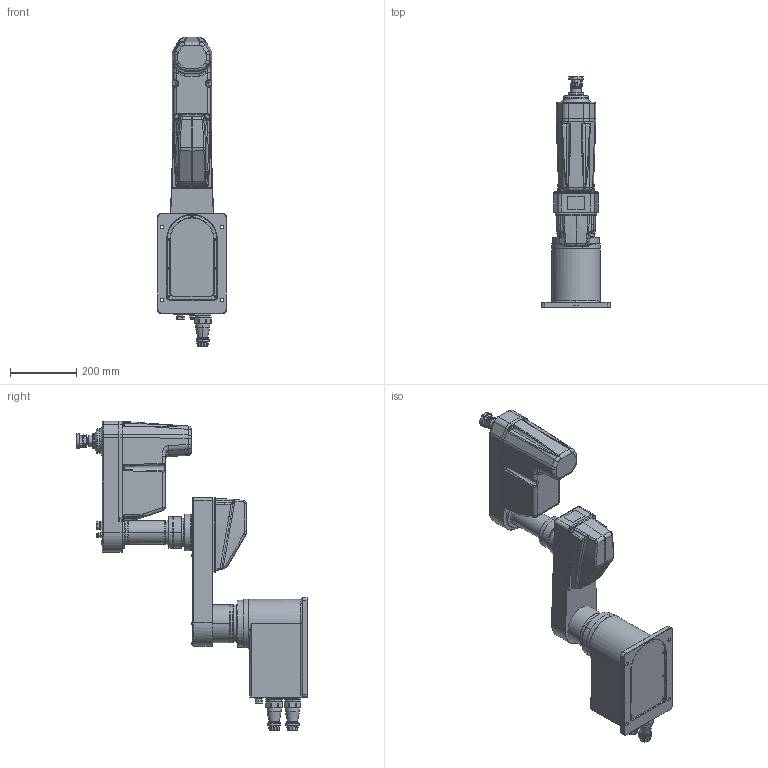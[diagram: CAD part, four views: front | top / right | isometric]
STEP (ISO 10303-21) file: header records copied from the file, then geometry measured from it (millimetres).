
FILE_DESCRIPTION((''),'2;1');
FILE_NAME('LSD550-2025_ASM','2025-06-21T10:15:45',('EBDGC-08'),(''),'CREO PARAMETRIC BY PTC INC, 2021063','CREO PARAMETRIC BY PTC INC, 2021063','');
FILE_SCHEMA(('AUTOMOTIVE_DESIGN { 1 0 10303 214 1 1 1 1 }'));
Length unit declared in the file: inch
Products named in the file (5): 00; LSD550-2025_ASM
Assembly tree (4 placements, depth 2):
  LSD550-2025_ASM
    00
    00
    00
    00
Bounding box: 207 x 695.5 x 931.72 mm (x, y, z)
Surface area: 1459688.9 mm2 (no closed solid volume)
Topology: 0 solids, 269 shells, 2178 faces, 7562 edges, 5531 vertices
Faces by surface type: cylinder 961, plane 640, cone 306, torus 133, bspline 114, sphere 22, extrusion 2
Entity records: 105395 total; most frequent: CARTESIAN_POINT 35082, DIRECTION 14125, ORIENTED_EDGE 11781, EDGE_CURVE 7540, AXIS2_PLACEMENT_3D 5617, VERTEX_POINT 5531, CIRCLE 3497, VECTOR 2876
